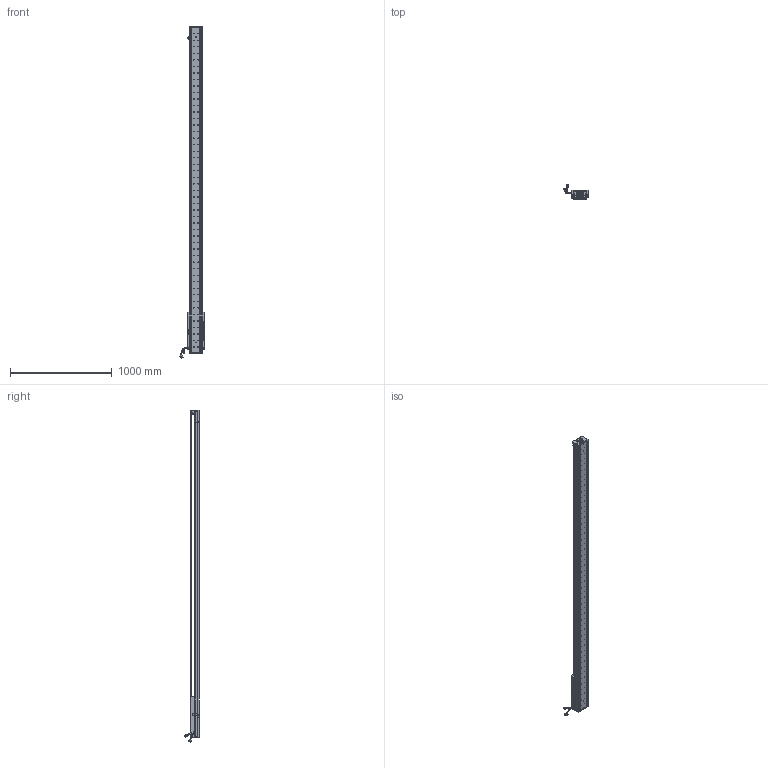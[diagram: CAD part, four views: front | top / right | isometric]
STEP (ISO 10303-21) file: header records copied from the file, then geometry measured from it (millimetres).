
FILE_DESCRIPTION (( 'STEP AP203' ), '1' );
FILE_NAME ('Z5-RY140D-1-L500-B-K.SLDASM_2750.step', '2021-05-17T08:41:33', ( '盈信电脑' ), ( '东莞市道滘镇水果街19号' ), 'SwSTEP 2.0', 'SolidWorks 2016', '' );
FILE_SCHEMA (( 'CONFIG_CONTROL_DESIGN' ));
Length unit declared in the file: millimetre
Products named in the file (36): PBU_SHEET; Z5-RY140D-1-L500-B-K.SLDASM_2750; 140-Z-臏賑輸盄裔(21遴); 140蚥薯蝶輸; Z5-RY140圉猾敕臏賑輸(21遴); PSLH080_PSLF2; Z-140詩湍傷裔啣; SCREW-M1.6-3; 覜茼ん672; LABEL-Part-1; LABEL; Z-RY140感应器672光电感应片; SHIELDPLATE; 詩湍奻揤裔; SCREW-M1.7-1; HARNESS; 080黍杅芛假蚾釱21遴; SCREW-M1.7; 詩湍狟揤裔; SCALE-Part-2; HARNESS-Part-2; Z5-RY140-L500直线电机模组底座_2750; SEAL; SCREW-M1.6; Z5-RY140-L500詩湍100mm遵_2750; HOLDER0; SEAL-Part-1; 榋妏寠巭燃_暯_M2_2; SCREW-M1.6-1; SCALE; 140雄赽晤鎢ん堤盄; SCALE-Part-1; HARNESS-Part-1; COVER-Part-1; SCREW-M1.6-2; COVER
Assembly tree (41 placements, depth 4):
  Z5-RY140D-1-L500-B-K.SLDASM_2750
    Z5-RY140-L500直线电机模组底座_2750
    Z-RY140感应器672光电感应片
    Z5-RY140圉猾敕臏賑輸(21遴)
    覜茼ん672  x3
    Z5-RY140-L500詩湍100mm遵_2750
    PSLH080_PSLF2
      SCALE
        SCALE-Part-1
        SCALE-Part-2
      HARNESS
        HARNESS-Part-1
        HARNESS-Part-2
      LABEL
        LABEL-Part-1
      COVER
        COVER-Part-1
      SEAL
        SEAL-Part-1
      榋妏寠巭燃_暯_M2_2
      SHIELDPLATE
      SCREW-M1.7
      SCREW-M1.7-1
      PBU_SHEET
      SCREW-M1.6
      SCREW-M1.6-1
      SCREW-M1.6-2
      SCREW-M1.6-3
      HOLDER0
    080黍杅芛假蚾釱21遴
    140-Z-臏賑輸盄裔(21遴)
    Z-140詩湍傷裔啣  x2
    詩湍狟揤裔  x2
    詩湍奻揤裔  x2
    140蚥薯蝶輸  x2
    140雄赽晤鎢ん堤盄
Bounding box: 239.79 x 143.88 x 3255.87 mm (x, y, z)
Volume: 10609119.4 mm3; surface area: 2726871.5 mm2
Topology: 36 solids, 36 shells, 4566 faces, 12494 edges, 7917 vertices
Faces by surface type: cylinder 2550, plane 1452, cone 442, torus 69, bspline 53
Entity records: 147166 total; most frequent: CARTESIAN_POINT 42137, ORIENTED_EDGE 21828, DIRECTION 20054, EDGE_CURVE 10914, AXIS2_PLACEMENT_3D 7498, VERTEX_POINT 7085, LINE 5058, VECTOR 5058
